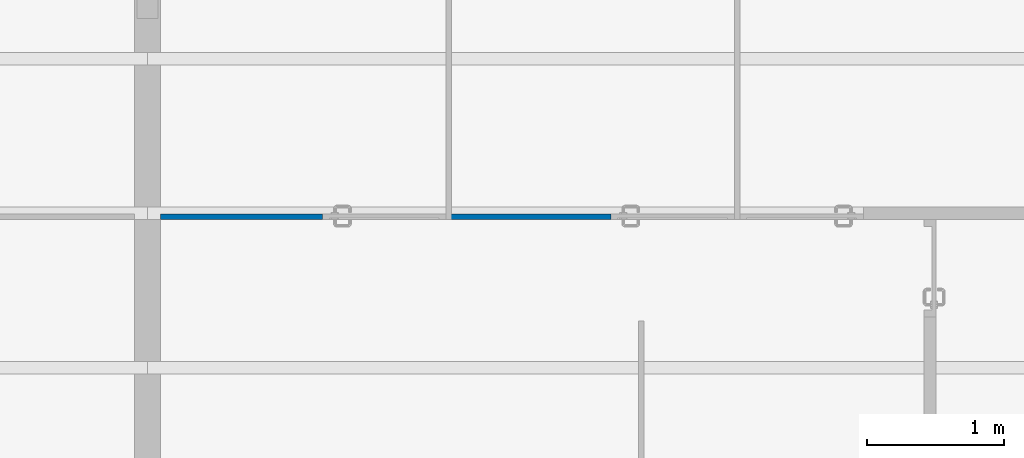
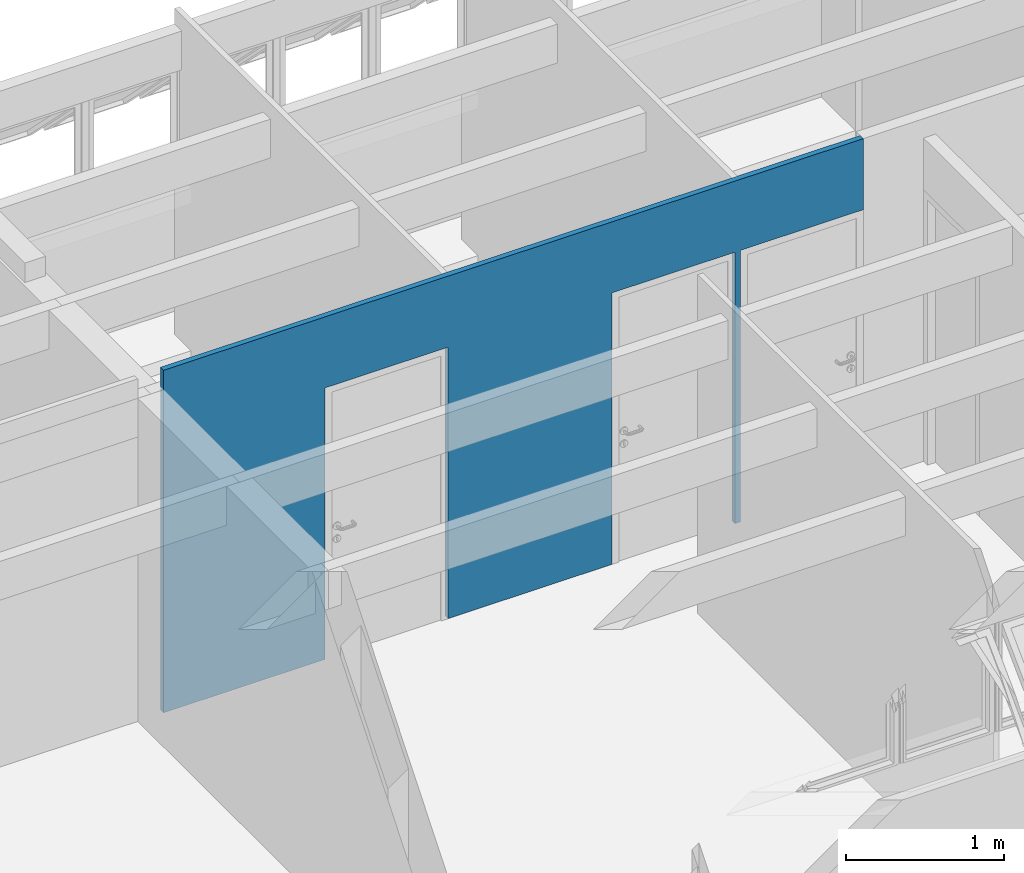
# One storey, part 24 of 37: 1 wall, 3 openings.
"""IFC2X3 building model written with IfcOpenShell, lengths in millimetres."""

import ifcopenshell
import ifcopenshell.guid

model = None  # the IFC model being written
_history = None  # IfcOwnerHistory: only IFC2X3 demands one
_inside = {}  # id of a spatial element -> (the spatial element, [elements in it])
_under = {}  # id of a project, library or spatial element -> (it, [spatial elements below it])
_declared = {}  # id of a project -> (the project, [libraries it declares])
_typed = {}  # id of a type object -> (the type object, [elements of that type])
_made_of = {}  # id of a material, layer set ... -> (it, [elements and type objects made of it])


def new_model(schema):
    """Start an empty IFC model of exactly this schema.

    Asked for "IFC4X3", IfcOpenShell would pick the latest addendum, in which some entities
    have other attributes; the version numbers below select the first issue.
    IFC2X3 requires an IfcOwnerHistory on every rooted entity: one is made here for all.
    """
    global model, _history
    if schema == "IFC4X3":
        model = ifcopenshell.file(schema_version=(4, 3, 0, 0))
    else:
        model = ifcopenshell.file(schema=schema)
    _inside.clear()
    _under.clear()
    _declared.clear()
    _typed.clear()
    _made_of.clear()
    _history = None
    if model.schema == "IFC2X3":
        org = make("IfcOrganization", Name="unknown")
        user = make(
            "IfcPersonAndOrganization",
            ThePerson=make("IfcPerson", FamilyName="unknown"),
            TheOrganization=org,
        )
        app = make(
            "IfcApplication",
            ApplicationDeveloper=org,
            Version="unknown",
            ApplicationFullName="unknown",
            ApplicationIdentifier="unknown",
        )
        _history = make(
            "IfcOwnerHistory",
            OwningUser=user,
            OwningApplication=app,
            ChangeAction="ADDED",
            CreationDate=0,
        )
    return model


def make(cls, **values):
    """One entity of the class cls with the attributes given. An attribute that is None is left unset."""
    return model.create_entity(
        cls, **{name: value for name, value in values.items() if value is not None}
    )


def entity(cls, *values):
    """Any entity or typed value of the class cls, its attributes in the order of the schema. None: left unset."""
    e = model.create_entity(cls)
    for i, value in enumerate(values):
        if value is not None:
            e[i] = value
    return e


def rooted(cls, **values):
    """An entity with a GlobalId (a new one), such as an element, a storey or a relation."""
    return make(cls, GlobalId=ifcopenshell.guid.new(), OwnerHistory=_history, **values)


def si_unit(unit_type, name, prefix=None):
    """IfcSIUnit, for example si_unit("LENGTHUNIT", "METRE", prefix="MILLI")."""
    return make("IfcSIUnit", UnitType=unit_type, Prefix=prefix, Name=name)


def converted_unit(unit_type, name, factor, base, dimensions=None, offset=None):
    """IfcConversionBasedUnit, such as the inch: factor (a typed value) times the base unit."""
    return make(
        "IfcConversionBasedUnit"
        if offset is None
        else "IfcConversionBasedUnitWithOffset",
        ConversionOffset=offset,
        Dimensions=None
        if dimensions is None
        else entity("IfcDimensionalExponents", *dimensions),
        UnitType=unit_type,
        Name=name,
        ConversionFactor=make(
            "IfcMeasureWithUnit", ValueComponent=factor, UnitComponent=base
        ),
    )


def derived_unit(unit_type, elements):
    """IfcDerivedUnit: a product of units, each with its exponent."""
    return make(
        "IfcDerivedUnit",
        Elements=[
            make("IfcDerivedUnitElement", Unit=unit, Exponent=power)
            for unit, power in elements
        ],
        UnitType=unit_type,
    )


def money_unit(currency):
    """IfcMonetaryUnit."""
    return make("IfcMonetaryUnit", Currency=currency)


def assignment(units):
    """IfcUnitAssignment: the units of a project."""
    return None if units is None else make("IfcUnitAssignment", Units=units)


def point(xyz):
    """IfcCartesianPoint."""
    return None if xyz is None else make("IfcCartesianPoint", Coordinates=xyz)


def direction(xyz):
    """IfcDirection."""
    return None if xyz is None else make("IfcDirection", DirectionRatios=xyz)


def frame(location, z_axis=None, x_axis=None):
    """IfcAxis2Placement3D, a coordinate frame: its origin and axes. An axis left out is left unset."""
    return make(
        "IfcAxis2Placement3D",
        Location=point(location),
        Axis=direction(z_axis),
        RefDirection=direction(x_axis),
    )


def frame_2d(location, x_axis=None):
    """IfcAxis2Placement2D, a coordinate frame in the plane: its origin and x axis."""
    return make(
        "IfcAxis2Placement2D", Location=point(location), RefDirection=direction(x_axis)
    )


def origin_with_axes():
    """The frame at (0, 0, 0) with the z axis (0, 0, 1) and the x axis (1, 0, 0) written out."""
    return frame((0.0, 0.0, 0.0), z_axis=(0.0, 0.0, 1.0), x_axis=(1.0, 0.0, 0.0))


def origin_2d_with_axis():
    """The frame at (0, 0) in the plane with the x axis (1, 0) written out."""
    return frame_2d((0.0, 0.0), x_axis=(1.0, 0.0))


def place(relative_to, where):
    """IfcLocalPlacement: puts the frame where relative to a parent placement (None: the world)."""
    return make(
        "IfcLocalPlacement", PlacementRelTo=relative_to, RelativePlacement=where
    )


def context(
    kind, dimensions, precision=None, world=None, true_north=None, identifier=None
):
    """IfcGeometricRepresentationContext, for example the 3D "Model" context."""
    return make(
        "IfcGeometricRepresentationContext",
        ContextIdentifier=identifier,
        ContextType=kind,
        CoordinateSpaceDimension=dimensions,
        Precision=precision,
        WorldCoordinateSystem=world,
        TrueNorth=true_north,
    )


def subcontext(parent, identifier, kind, view, scale=None):
    """IfcGeometricRepresentationSubContext, for example "Body" below "Model"."""
    return make(
        "IfcGeometricRepresentationSubContext",
        ContextIdentifier=identifier,
        ContextType=kind,
        ParentContext=parent,
        TargetScale=scale,
        TargetView=view,
    )


def project(units=None, contexts=None):
    """IfcProject with its units and contexts."""
    return rooted(
        "IfcProject",
        Name="project",
        RepresentationContexts=contexts,
        UnitsInContext=assignment(units),
    )


def spatial(cls, under=None, at=None, **own):
    """A site, building, storey or space (cls), placed at a placement, below another one or the project."""
    s = rooted(cls, ObjectPlacement=at, **own)
    if under is not None:
        _under.setdefault(under.id(), (under, []))[1].append(s)
    return s


def polyline(points):
    """IfcPolyline through the points."""
    return make("IfcPolyline", Points=[point(p) for p in points])


def profile(cls, at=None, kind="AREA", **sizes):
    """A parametric profile (cls). Its sizes go by their IFC names, for example OverallWidth=200.0."""
    return make(cls, ProfileType=kind, Position=at, **sizes)


def rectangle(**sizes):
    """IfcRectangleProfileDef."""
    return profile("IfcRectangleProfileDef", **sizes)


def outline(outer, holes=None, kind="AREA"):
    """IfcArbitraryClosedProfileDef: a profile drawn as a closed curve; with holes, ...WithVoids."""
    if holes is None:
        return make("IfcArbitraryClosedProfileDef", ProfileType=kind, OuterCurve=outer)
    return make(
        "IfcArbitraryProfileDefWithVoids",
        ProfileType=kind,
        OuterCurve=outer,
        InnerCurves=holes,
    )


def extrude(swept, where, along, depth):
    """IfcExtrudedAreaSolid: the profile swept, set in the frame where, extruded along a direction by depth."""
    return make(
        "IfcExtrudedAreaSolid",
        SweptArea=swept,
        Position=where,
        ExtrudedDirection=direction(along),
        Depth=depth,
    )


def shape(context_of_items, identifier, shape_type, items):
    """IfcShapeRepresentation: the items that make up one representation, for example the "Body"."""
    return make(
        "IfcShapeRepresentation",
        ContextOfItems=context_of_items,
        RepresentationIdentifier=identifier,
        RepresentationType=shape_type,
        Items=items,
    )


def material(Name=None, Category=None):
    """IfcMaterial."""
    return make("IfcMaterial", Name=Name, Category=Category)


def layer(
    of_material, thickness, ventilated=None, Name=None, Category=None, Priority=None
):
    """IfcMaterialLayer: one layer of a wall or slab, of a material (None: an air gap)."""
    return make(
        "IfcMaterialLayer",
        Material=of_material,
        LayerThickness=thickness,
        IsVentilated=ventilated,
        Name=Name,
        Category=Category,
        Priority=Priority,
    )


def layer_set(layers, Name=None):
    """IfcMaterialLayerSet."""
    return make("IfcMaterialLayerSet", MaterialLayers=layers, LayerSetName=Name)


def layer_usage(for_layer_set, set_direction, sense, offset, extent=None):
    """IfcMaterialLayerSetUsage: how a layer set lies in its element."""
    return make(
        "IfcMaterialLayerSetUsage",
        ForLayerSet=for_layer_set,
        LayerSetDirection=set_direction,
        DirectionSense=sense,
        OffsetFromReferenceLine=offset,
        ReferenceExtent=extent,
    )


def made_of(thing, what):
    """Note that an element or type object is made of a material, layer set ...; save() writes the relation."""
    if what is not None:
        _made_of.setdefault(what.id(), (what, []))[1].append(thing)
    return thing


def type_object(cls, material=None, **own):
    """A type object (cls), such as IfcWallType, which elements share."""
    return made_of(rooted(cls, **own), material)


def element(
    cls,
    number,
    at=None,
    inside=None,
    cuts=None,
    type_object=None,
    material=None,
    context=None,
    identifier="Body",
    shape_type=None,
    held_by="IfcProductDefinitionShape",
    body=None,
    shapes=None,
    **own,
):
    """One element of the class cls, such as IfcWall. Its Tag is "e" and its number.

    at: its placement. inside: the storey or other place that contains it. cuts: it is an
    opening in that element (IfcRelVoidsElement). A single representation is given by context,
    identifier, shape_type and body (its items); several are given by shapes. held_by: the class
    of the entity that holds the representations. save() writes the other relations.
    """
    e = rooted(cls, Tag="e%d" % number, ObjectPlacement=at, **own)
    if body is not None:
        shapes = [shape(context, identifier, shape_type, body)]
    if shapes is not None:
        e.Representation = make(held_by, Representations=shapes)
    if inside is not None:
        _inside.setdefault(inside.id(), (inside, []))[1].append(e)
    if cuts is not None:
        rooted(
            "IfcRelVoidsElement", RelatingBuildingElement=cuts, RelatedOpeningElement=e
        )
    if type_object is not None:
        _typed.setdefault(type_object.id(), (type_object, []))[1].append(e)
    return made_of(e, material)


def aggregate(whole, parts):
    """IfcRelAggregates: a whole, such as a stair, and the parts it consists of."""
    return rooted("IfcRelAggregates", RelatingObject=whole, RelatedObjects=parts)


def save(model, path):
    """Write the relations noted so far, then the file.

    IfcRelAggregates (storeys below a building ...), IfcRelContainedInSpatialStructure (elements
    in a storey), IfcRelDefinesByType, IfcRelAssociatesMaterial and IfcRelDeclares: one each for
    every whole, place, type object, material and project.
    """
    for whole, parts in _under.values():
        aggregate(whole, parts)
    for where, things in _inside.values():
        rooted(
            "IfcRelContainedInSpatialStructure",
            RelatedElements=things,
            RelatingStructure=where,
        )
    for kind, things in _typed.values():
        rooted("IfcRelDefinesByType", RelatedObjects=things, RelatingType=kind)
    for what, things in _made_of.values():
        rooted("IfcRelAssociatesMaterial", RelatedObjects=things, RelatingMaterial=what)
    for by, libraries in _declared.values():
        rooted("IfcRelDeclares", RelatingContext=by, RelatedDefinitions=libraries)
    model.write(path)


model = new_model("IFC2X3")

# Units and contexts
model_context = context("Model", 3, precision=0.01, world=origin_with_axes(), true_north=direction((0.0, 1.0)))
body_context = subcontext(model_context, "Body", "Model", "MODEL_VIEW")
ifc_project = project(units=[si_unit("LENGTHUNIT", "METRE", prefix="MILLI"), si_unit("AREAUNIT", "SQUARE_METRE"), si_unit("VOLUMEUNIT", "CUBIC_METRE"), converted_unit("PLANEANGLEUNIT", "DEGREE", entity("IfcPlaneAngleMeasure", 0.0174532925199), si_unit("PLANEANGLEUNIT", "RADIAN"), dimensions=[0, 0, 0, 0, 0, 0, 0]), money_unit("USD"), converted_unit("TIMEUNIT", "Year", entity("IfcTimeMeasure", 31556926.0), si_unit("TIMEUNIT", "SECOND"), dimensions=[0, 0, 1, 0, 0, 0, 0]), si_unit("MASSUNIT", "GRAM", prefix="KILO"), si_unit("THERMODYNAMICTEMPERATUREUNIT", "DEGREE_CELSIUS"), si_unit("LUMINOUSINTENSITYUNIT", "LUMEN"), si_unit("ENERGYUNIT", "JOULE", prefix="MEGA"), derived_unit("THERMALCONDUCTANCEUNIT", [(si_unit("POWERUNIT", "WATT"), 1), (si_unit("LENGTHUNIT", "METRE"), -1), (si_unit("THERMODYNAMICTEMPERATUREUNIT", "KELVIN"), -1)]), derived_unit("SPECIFICHEATCAPACITYUNIT", [(si_unit("ENERGYUNIT", "JOULE"), 1), (si_unit("MASSUNIT", "GRAM", prefix="KILO"), -1), (si_unit("THERMODYNAMICTEMPERATUREUNIT", "KELVIN"), -1)]), derived_unit("MASSDENSITYUNIT", [(si_unit("MASSUNIT", "GRAM", prefix="KILO"), 1), (si_unit("VOLUMEUNIT", "CUBIC_METRE"), -1)])], contexts=[model_context])

# Site, building, storey
site_placement = place(None, origin_with_axes())
site = spatial("IfcSite", under=ifc_project, at=site_placement, Name="Local", CompositionType="ELEMENT")
building_placement = place(site_placement, origin_with_axes())
building = spatial("IfcBuilding", under=site, at=building_placement, Name="Construção", CompositionType="ELEMENT")
storey_placement = place(building_placement, frame((0.0, 0.0, 5300.0), z_axis=(0.0, 0.0, 1.0), x_axis=(1.0, 0.0, 0.0)))
storey = spatial("IfcBuildingStorey", under=building, at=storey_placement, Name="Terceiro Pavimento", CompositionType="ELEMENT", Elevation=5300.0)

# Wall, openings
ifc_material = material(Name="GENÉRICO - VEDAÇÃO EXTERNA")
ifc_layer = layer(ifc_material, 40.0, ventilated="UNKNOWN")
ifc_layer_set = layer_set([ifc_layer], Name="GENÉRICO - VEDAÇÃO EXTERNA 40")
ifc_layer_usage = layer_usage(ifc_layer_set, "AXIS2", "NEGATIVE", 0.0)
wall_type = type_object("IfcWallType", Name="GENÉRICO - VEDAÇÃO EXTERNA 40", PredefinedType="NOTDEFINED")
wall_placement = place(storey_placement, frame((12600.0, 22394.7804333, 0.0), z_axis=(0.0, 0.0, 1.0), x_axis=(-0.99999999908, 4.28841203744e-05, 0.0)))
wall = element("IfcWallStandardCase", 1, at=wall_placement, inside=storey, type_object=wall_type, material=ifc_layer_usage, Name="APTO12-PAREDE-006", context=body_context, shape_type="SweptSolid", body=[
    extrude(outline(polyline([(0.00085768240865, -40.0), (5120.00172007, -40.0), (5120.00000471, 0.0), (0.0, 0.0), (0.00085768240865, -40.0)])), origin_with_axes(), (0.0, 0.0, 1.0), 2650.0),
])
opening_1_placement = place(wall_placement, frame((1390.00000471, 0.0, 0.0), z_axis=(0.0, 0.0, 1.0), x_axis=(1.0, 0.0, 0.0)))
element("IfcOpeningElement", 2, at=opening_1_placement, cuts=wall, Name="APTO12-PORTA-002", context=body_context, shape_type="SweptSolid", body=[
    extrude(rectangle(XDim=900.0, YDim=2100.0, at=origin_2d_with_axis()), frame((0.0, -40.0, 1050.0), z_axis=(0.0, 1.0, 0.0), x_axis=(-1.0, 0.0, 0.0)), (0.0, 0.0, 1.0), 120.0),
])
opening_2_placement = place(wall_placement, frame((450.000004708, 0.0, 0.0), z_axis=(0.0, 0.0, 1.0), x_axis=(1.0, 0.0, 0.0)))
element("IfcOpeningElement", 3, at=opening_2_placement, cuts=wall, Name="APTO12-PORTA-001", context=body_context, shape_type="SweptSolid", body=[
    extrude(rectangle(XDim=900.0, YDim=2100.0, at=origin_2d_with_axis()), frame((0.0, -40.0, 1050.0), z_axis=(0.0, -1.0, 0.0), x_axis=(1.0, 0.0, 0.0)), (0.0, 0.0, -1.0), 120.0),
])
opening_3_placement = place(wall_placement, frame((3490.00000471, 0.0, 0.0), z_axis=(0.0, 0.0, 1.0), x_axis=(1.0, 0.0, 0.0)))
element("IfcOpeningElement", 4, at=opening_3_placement, cuts=wall, Name="APTO12-PORTA-000", context=body_context, shape_type="SweptSolid", body=[
    extrude(rectangle(XDim=900.0, YDim=2100.0, at=origin_2d_with_axis()), frame((0.0, -40.0, 1050.0), z_axis=(0.0, 1.0, 0.0), x_axis=(-1.0, 0.0, 0.0)), (0.0, 0.0, 1.0), 120.0),
])

save(model, "model.ifc")
